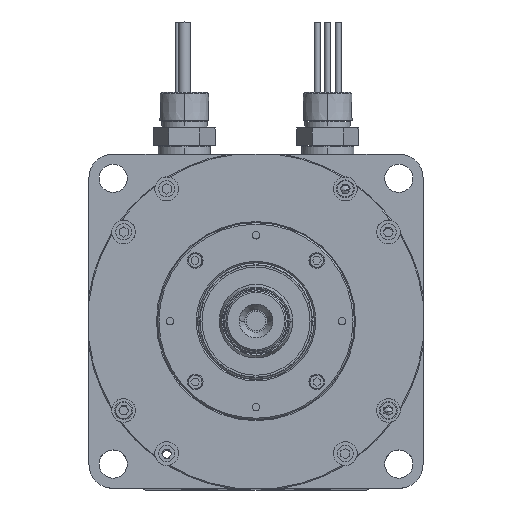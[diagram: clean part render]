
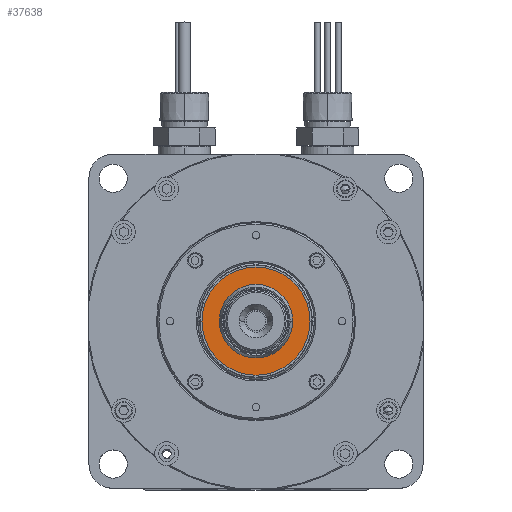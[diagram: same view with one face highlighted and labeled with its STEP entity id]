
A CAD part, top view. The second image highlights one B-rep face of the part: STEP entity #37638.
In plain terms, the highlighted planar face has unit normal (0, 0, 1).
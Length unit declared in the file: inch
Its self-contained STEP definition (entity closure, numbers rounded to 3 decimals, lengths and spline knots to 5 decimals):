
#475 = EDGE_CURVE ( 'NONE', #10274, #50905, #42473, .T. ) ;
#894 = VERTEX_POINT ( 'NONE', #10049 ) ;
#1974 = EDGE_CURVE ( 'NONE', #9418, #894, #39727, .T. ) ;
#2098 = AXIS2_PLACEMENT_3D ( 'NONE', #40730, #16410, #44809 ) ;
#2532 = DIRECTION ( 'NONE',  ( -1., 0., 0. ) ) ;
#2675 = CARTESIAN_POINT ( 'NONE',  ( 0., 0., -2.36421 ) ) ;
#2885 = CARTESIAN_POINT ( 'NONE',  ( -0.77, 0., -2.36421 ) ) ;
#4034 = CARTESIAN_POINT ( 'NONE',  ( -1.1825, 0., -2.36421 ) ) ;
#4175 = ORIENTED_EDGE ( 'NONE', *, *, #475, .T. ) ;
#6067 = ORIENTED_EDGE ( 'NONE', *, *, #1974, .F. ) ;
#6767 = DIRECTION ( 'NONE',  ( -1., 0., 0. ) ) ;
#8869 = EDGE_LOOP ( 'NONE', ( #6067, #17301 ) ) ;
#9418 = VERTEX_POINT ( 'NONE', #4034 ) ;
#10049 = CARTESIAN_POINT ( 'NONE',  ( 1.1825, 0., -2.36421 ) ) ;
#10274 = VERTEX_POINT ( 'NONE', #42614 ) ;
#14295 = CARTESIAN_POINT ( 'NONE',  ( 0., 1.1825, -2.36421 ) ) ;
#16410 = DIRECTION ( 'NONE',  ( 0., 0., -1. ) ) ;
#17301 = ORIENTED_EDGE ( 'NONE', *, *, #39117, .F. ) ;
#19759 = CARTESIAN_POINT ( 'NONE',  ( 0., 0., -2.36421 ) ) ;
#22470 = DIRECTION ( 'NONE',  ( 0., 0., 1. ) ) ;
#23478 = AXIS2_PLACEMENT_3D ( 'NONE', #51192, #26923, #2532 ) ;
#23877 = DIRECTION ( 'NONE',  ( -1., 0., 0. ) ) ;
#26923 = DIRECTION ( 'NONE',  ( 0., 0., -1. ) ) ;
#28707 = ORIENTED_EDGE ( 'NONE', *, *, #46512, .T. ) ;
#30068 = FACE_BOUND ( 'NONE', #46383, .T. ) ;
#31130 = DIRECTION ( 'NONE',  ( 0., 0., -1. ) ) ;
#33736 = AXIS2_PLACEMENT_3D ( 'NONE', #2675, #31130, #6767 ) ;
#37638 = ADVANCED_FACE ( 'NONE', ( #30068, #39547 ), #42553, .T. ) ;
#38376 = AXIS2_PLACEMENT_3D ( 'NONE', #19759, #48176, #23877 ) ;
#39117 = EDGE_CURVE ( 'NONE', #894, #9418, #42051, .T. ) ;
#39547 = FACE_OUTER_BOUND ( 'NONE', #8869, .T. ) ;
#39727 = CIRCLE ( 'NONE', #2098, 1.1825 ) ;
#40730 = CARTESIAN_POINT ( 'NONE',  ( 0., 0., -2.36421 ) ) ;
#42051 = CIRCLE ( 'NONE', #23478, 1.1825 ) ;
#42473 = CIRCLE ( 'NONE', #33736, 0.77 ) ;
#42553 = PLANE ( 'NONE',  #51838 ) ;
#42614 = CARTESIAN_POINT ( 'NONE',  ( 0.77, 0., -2.36421 ) ) ;
#44809 = DIRECTION ( 'NONE',  ( -1., 0., 0. ) ) ;
#46383 = EDGE_LOOP ( 'NONE', ( #28707, #4175 ) ) ;
#46512 = EDGE_CURVE ( 'NONE', #50905, #10274, #49755, .T. ) ;
#48176 = DIRECTION ( 'NONE',  ( 0., 0., -1. ) ) ;
#49755 = CIRCLE ( 'NONE', #38376, 0.77 ) ;
#50856 = DIRECTION ( 'NONE',  ( 1., 0., 0. ) ) ;
#50905 = VERTEX_POINT ( 'NONE', #2885 ) ;
#51192 = CARTESIAN_POINT ( 'NONE',  ( 0., 0., -2.36421 ) ) ;
#51838 = AXIS2_PLACEMENT_3D ( 'NONE', #14295, #22470, #50856 ) ;
